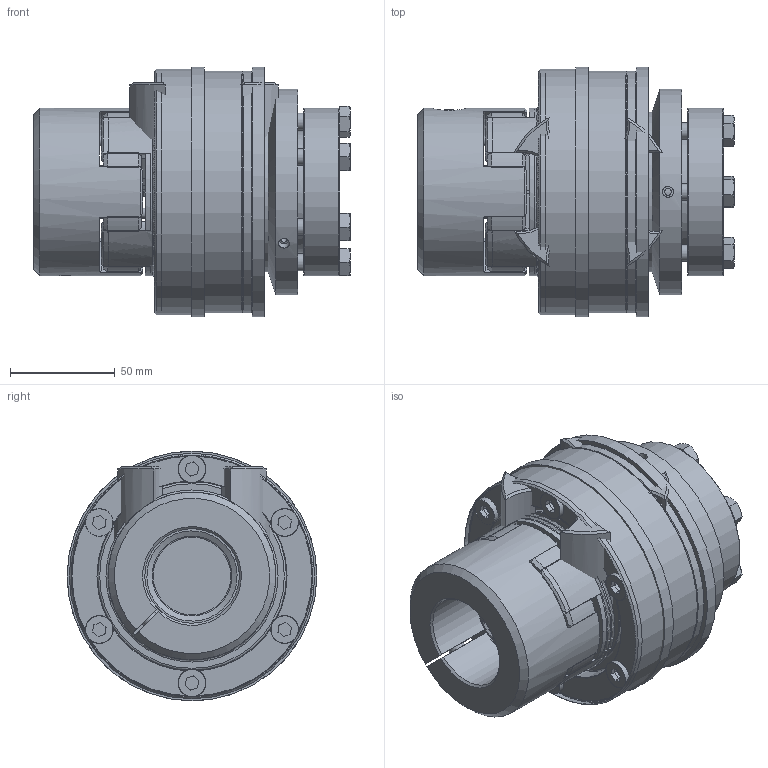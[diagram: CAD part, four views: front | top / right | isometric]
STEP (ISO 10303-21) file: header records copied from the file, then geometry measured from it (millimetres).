
FILE_DESCRIPTION( ( 'Unknown' ), '1' );
FILE_NAME( 'C:/Dokumente und Einstellungen/Sven/Desktop/hp kbk/E-KA/KBK EKA-38-146.stp', 'Unknown', ( 'Unknown' ), ( 'Unknown' ), 'XStep 1.0', 'Unknown', ' ' );
FILE_SCHEMA( ( 'automotive_design' ) );
Length unit declared in the file: millimetre
Products named in the file (18): Assem1; Assem2; Assem3; Zylinderschraube DIN 912_2; ball_bearing_-_6011_0_01; ball_bearing_-_6011_0_02; ball_bearing_-_6011_0_03; KBK L-A-300 Grundkörper; Druckring L-A-300; Flansch 300; Stellring 300; Druckring 300; a_55; din_en_24017_m8x30; Elastomerflansch 38; Zahnkranz_38_Standard; KBE 2 C - 38_Nabe; Socket Head Cap Screw_DIN_DIN 912 M8 x 25 --- 25C
Bounding box: 150.9 x 119 x 119 mm (x, y, z)
Volume: 1693260.2 mm3; surface area: 501986.7 mm2
Topology: 44 solids, 44 shells, 1063 faces, 2388 edges, 1506 vertices
Faces by surface type: plane 375, cylinder 330, cone 296, torus 62
Full cylindrical faces by diameter (mm): 2.5 x4, 3.242 x6, 5 x16, 5.2 x6, 6.647 x24, 8 x17, 8.2 x12, 8.376 x2, 8.5 x12, 10.5 x2, 11.63 x7, 13 x10, 13.2 x12, 17 x2, 25 x2, 38 x4, 40 x2, 52 x2, 55 x7, 57.995 x2, 66.3 x6, 76 x4, 79.1 x6, 80 x4, 83.5 x2, 88 x2, 90 x7, 98 x2, 98.5 x2, 115 x4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
Entity records: 12421 total; most frequent: CARTESIAN_POINT 2924, DIRECTION 2064, ORIENTED_EDGE 1628, AXIS2_PLACEMENT_3D 949, EDGE_CURVE 814, EDGE_LOOP 646, VERTEX_POINT 579, FACE_OUTER_BOUND 526
